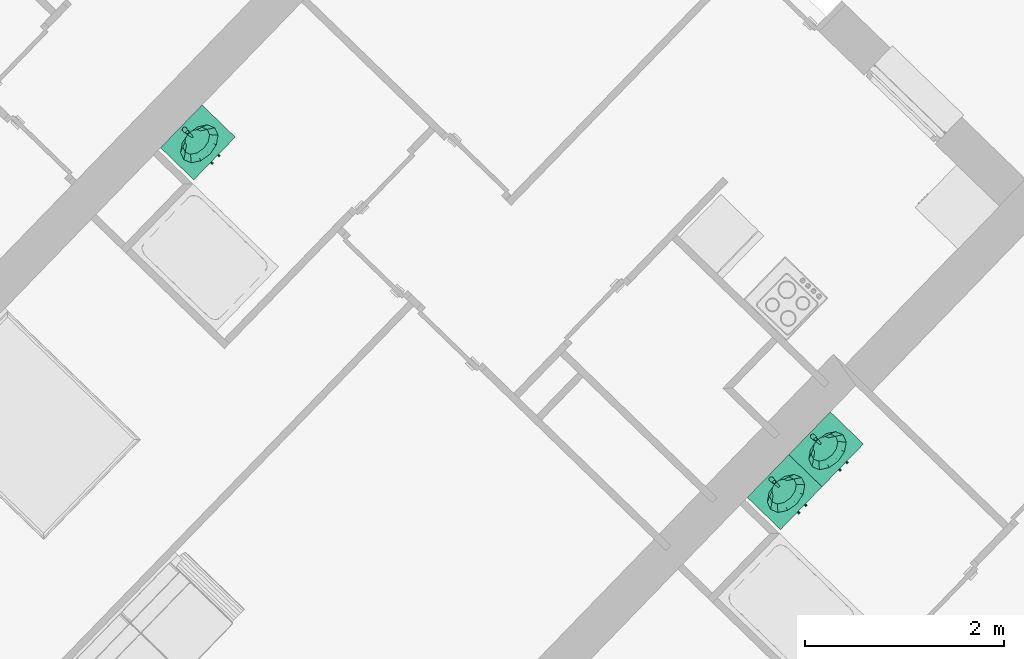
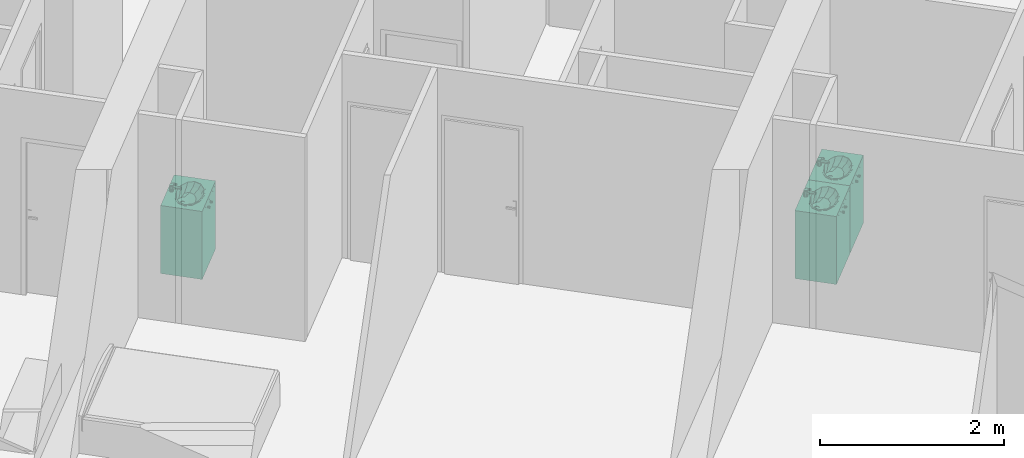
# One storey, part 88 of 121: 3 distribution elements.
"""IFC2X3 building model written with IfcOpenShell, lengths in metres."""

import ifcopenshell
import ifcopenshell.guid

model = None  # the IFC model being written
_history = None  # IfcOwnerHistory: only IFC2X3 demands one
_inside = {}  # id of a spatial element -> (the spatial element, [elements in it])
_under = {}  # id of a project, library or spatial element -> (it, [spatial elements below it])
_declared = {}  # id of a project -> (the project, [libraries it declares])
_typed = {}  # id of a type object -> (the type object, [elements of that type])
_made_of = {}  # id of a material, layer set ... -> (it, [elements and type objects made of it])


def new_model(schema):
    """Start an empty IFC model of exactly this schema.

    Asked for "IFC4X3", IfcOpenShell would pick the latest addendum, in which some entities
    have other attributes; the version numbers below select the first issue.
    IFC2X3 requires an IfcOwnerHistory on every rooted entity: one is made here for all.
    """
    global model, _history
    if schema == "IFC4X3":
        model = ifcopenshell.file(schema_version=(4, 3, 0, 0))
    else:
        model = ifcopenshell.file(schema=schema)
    _inside.clear()
    _under.clear()
    _declared.clear()
    _typed.clear()
    _made_of.clear()
    _history = None
    if model.schema == "IFC2X3":
        org = make("IfcOrganization", Name="unknown")
        user = make(
            "IfcPersonAndOrganization",
            ThePerson=make("IfcPerson", FamilyName="unknown"),
            TheOrganization=org,
        )
        app = make(
            "IfcApplication",
            ApplicationDeveloper=org,
            Version="unknown",
            ApplicationFullName="unknown",
            ApplicationIdentifier="unknown",
        )
        _history = make(
            "IfcOwnerHistory",
            OwningUser=user,
            OwningApplication=app,
            ChangeAction="ADDED",
            CreationDate=0,
        )
    return model


def make(cls, **values):
    """One entity of the class cls with the attributes given. An attribute that is None is left unset."""
    return model.create_entity(
        cls, **{name: value for name, value in values.items() if value is not None}
    )


def entity(cls, *values):
    """Any entity or typed value of the class cls, its attributes in the order of the schema. None: left unset."""
    e = model.create_entity(cls)
    for i, value in enumerate(values):
        if value is not None:
            e[i] = value
    return e


def rooted(cls, **values):
    """An entity with a GlobalId (a new one), such as an element, a storey or a relation."""
    return make(cls, GlobalId=ifcopenshell.guid.new(), OwnerHistory=_history, **values)


def si_unit(unit_type, name, prefix=None):
    """IfcSIUnit, for example si_unit("LENGTHUNIT", "METRE", prefix="MILLI")."""
    return make("IfcSIUnit", UnitType=unit_type, Prefix=prefix, Name=name)


def converted_unit(unit_type, name, factor, base, dimensions=None, offset=None):
    """IfcConversionBasedUnit, such as the inch: factor (a typed value) times the base unit."""
    return make(
        "IfcConversionBasedUnit"
        if offset is None
        else "IfcConversionBasedUnitWithOffset",
        ConversionOffset=offset,
        Dimensions=None
        if dimensions is None
        else entity("IfcDimensionalExponents", *dimensions),
        UnitType=unit_type,
        Name=name,
        ConversionFactor=make(
            "IfcMeasureWithUnit", ValueComponent=factor, UnitComponent=base
        ),
    )


def derived_unit(unit_type, elements):
    """IfcDerivedUnit: a product of units, each with its exponent."""
    return make(
        "IfcDerivedUnit",
        Elements=[
            make("IfcDerivedUnitElement", Unit=unit, Exponent=power)
            for unit, power in elements
        ],
        UnitType=unit_type,
    )


def money_unit(currency):
    """IfcMonetaryUnit."""
    return make("IfcMonetaryUnit", Currency=currency)


def assignment(units):
    """IfcUnitAssignment: the units of a project."""
    return None if units is None else make("IfcUnitAssignment", Units=units)


def point(xyz):
    """IfcCartesianPoint."""
    return None if xyz is None else make("IfcCartesianPoint", Coordinates=xyz)


def direction(xyz):
    """IfcDirection."""
    return None if xyz is None else make("IfcDirection", DirectionRatios=xyz)


def frame(location, z_axis=None, x_axis=None):
    """IfcAxis2Placement3D, a coordinate frame: its origin and axes. An axis left out is left unset."""
    return make(
        "IfcAxis2Placement3D",
        Location=point(location),
        Axis=direction(z_axis),
        RefDirection=direction(x_axis),
    )


def origin_with_axes():
    """The frame at (0, 0, 0) with the z axis (0, 0, 1) and the x axis (1, 0, 0) written out."""
    return frame((0.0, 0.0, 0.0), z_axis=(0.0, 0.0, 1.0), x_axis=(1.0, 0.0, 0.0))


def place(relative_to, where):
    """IfcLocalPlacement: puts the frame where relative to a parent placement (None: the world)."""
    return make(
        "IfcLocalPlacement", PlacementRelTo=relative_to, RelativePlacement=where
    )


def context(
    kind, dimensions, precision=None, world=None, true_north=None, identifier=None
):
    """IfcGeometricRepresentationContext, for example the 3D "Model" context."""
    return make(
        "IfcGeometricRepresentationContext",
        ContextIdentifier=identifier,
        ContextType=kind,
        CoordinateSpaceDimension=dimensions,
        Precision=precision,
        WorldCoordinateSystem=world,
        TrueNorth=true_north,
    )


def subcontext(parent, identifier, kind, view, scale=None):
    """IfcGeometricRepresentationSubContext, for example "Body" below "Model"."""
    return make(
        "IfcGeometricRepresentationSubContext",
        ContextIdentifier=identifier,
        ContextType=kind,
        ParentContext=parent,
        TargetScale=scale,
        TargetView=view,
    )


def project(units=None, contexts=None):
    """IfcProject with its units and contexts."""
    return rooted(
        "IfcProject",
        Name="project",
        RepresentationContexts=contexts,
        UnitsInContext=assignment(units),
    )


def spatial(cls, under=None, at=None, **own):
    """A site, building, storey or space (cls), placed at a placement, below another one or the project."""
    s = rooted(cls, ObjectPlacement=at, **own)
    if under is not None:
        _under.setdefault(under.id(), (under, []))[1].append(s)
    return s


def faces_of(points, faces, orient=None, outer=None):
    """IfcFace entities. A face is a list of loops; a loop is a list of indices into points, from 0.

    orient and outer hold one flag for each loop. By default every Orientation is true, the
    first loop of a face is its IfcFaceOuterBound and the others are IfcFaceBound.
    """
    made = []
    for i, loops in enumerate(faces):
        bounds = []
        for j, loop in enumerate(loops):
            is_outer = j == 0 if outer is None else outer[i][j]
            bounds.append(
                make(
                    "IfcFaceOuterBound" if is_outer else "IfcFaceBound",
                    Bound=make("IfcPolyLoop", Polygon=[points[k] for k in loop]),
                    Orientation=True if orient is None else orient[i][j],
                )
            )
        made.append(make("IfcFace", Bounds=bounds))
    return made


def open_shell(faces, orient=None, outer=None):
    """The faces of one IfcOpenShell. surface_model builds it on its shared points."""
    return ("IfcOpenShell", faces, orient, outer)


def faceted_brep(points, faces, orient=None, outer=None, voids=None):
    """IfcFacetedBrep: a solid bounded by flat faces; with voids (closed shells), ...WithVoids."""
    shared = [point(p) for p in points]
    hull = make("IfcClosedShell", CfsFaces=faces_of(shared, faces, orient, outer))
    if voids is None:
        return make("IfcFacetedBrep", Outer=hull)
    return make(
        "IfcFacetedBrepWithVoids",
        Outer=hull,
        Voids=[
            make(cls, CfsFaces=faces_of(shared, fs, o, b)) for cls, fs, o, b in voids
        ],
    )


def surface_model(cls, points, shells):
    """IfcFaceBasedSurfaceModel or IfcShellBasedSurfaceModel (cls): surfaces that need not close."""
    shared = [point(p) for p in points]
    made = [make(c, CfsFaces=faces_of(shared, fs, o, b)) for c, fs, o, b in shells]
    if cls == "IfcFaceBasedSurfaceModel":
        return make(cls, FbsmFaces=made)
    return make(cls, SbsmBoundary=made)


def shape(context_of_items, identifier, shape_type, items):
    """IfcShapeRepresentation: the items that make up one representation, for example the "Body"."""
    return make(
        "IfcShapeRepresentation",
        ContextOfItems=context_of_items,
        RepresentationIdentifier=identifier,
        RepresentationType=shape_type,
        Items=items,
    )


def source(mapping_origin, context_of_items, identifier, shape_type, items):
    """IfcRepresentationMap: a shape defined once, which mapped items show again and again."""
    return make(
        "IfcRepresentationMap",
        MappingOrigin=mapping_origin,
        MappedRepresentation=shape(context_of_items, identifier, shape_type, items),
    )


def transform(
    local_origin,
    x_axis=None,
    y_axis=None,
    z_axis=None,
    scale=None,
    scale2=None,
    scale3=None,
    uniform=True,
):
    """IfcCartesianTransformationOperator3D, or its non-uniform kind. x_axis, y_axis, z_axis: its Axis1, 2, 3."""
    if uniform:
        return make(
            "IfcCartesianTransformationOperator3D",
            Axis1=direction(x_axis),
            Axis2=direction(y_axis),
            LocalOrigin=point(local_origin),
            Scale=scale,
            Axis3=direction(z_axis),
        )
    return make(
        "IfcCartesianTransformationOperator3DnonUniform",
        Axis1=direction(x_axis),
        Axis2=direction(y_axis),
        LocalOrigin=point(local_origin),
        Scale=scale,
        Axis3=direction(z_axis),
        Scale2=scale2,
        Scale3=scale3,
    )


def mapped(mapping_source, mapping_target):
    """IfcMappedItem: shows the shape of a source again, moved by a transform."""
    return make(
        "IfcMappedItem", MappingSource=mapping_source, MappingTarget=mapping_target
    )


def made_of(thing, what):
    """Note that an element or type object is made of a material, layer set ...; save() writes the relation."""
    if what is not None:
        _made_of.setdefault(what.id(), (what, []))[1].append(thing)
    return thing


def type_object(cls, material=None, **own):
    """A type object (cls), such as IfcWallType, which elements share."""
    return made_of(rooted(cls, **own), material)


def element(
    cls,
    number,
    at=None,
    inside=None,
    cuts=None,
    type_object=None,
    material=None,
    context=None,
    identifier="Body",
    shape_type=None,
    held_by="IfcProductDefinitionShape",
    body=None,
    shapes=None,
    **own,
):
    """One element of the class cls, such as IfcWall. Its Tag is "e" and its number.

    at: its placement. inside: the storey or other place that contains it. cuts: it is an
    opening in that element (IfcRelVoidsElement). A single representation is given by context,
    identifier, shape_type and body (its items); several are given by shapes. held_by: the class
    of the entity that holds the representations. save() writes the other relations.
    """
    e = rooted(cls, Tag="e%d" % number, ObjectPlacement=at, **own)
    if body is not None:
        shapes = [shape(context, identifier, shape_type, body)]
    if shapes is not None:
        e.Representation = make(held_by, Representations=shapes)
    if inside is not None:
        _inside.setdefault(inside.id(), (inside, []))[1].append(e)
    if cuts is not None:
        rooted(
            "IfcRelVoidsElement", RelatingBuildingElement=cuts, RelatedOpeningElement=e
        )
    if type_object is not None:
        _typed.setdefault(type_object.id(), (type_object, []))[1].append(e)
    return made_of(e, material)


def aggregate(whole, parts):
    """IfcRelAggregates: a whole, such as a stair, and the parts it consists of."""
    return rooted("IfcRelAggregates", RelatingObject=whole, RelatedObjects=parts)


def save(model, path):
    """Write the relations noted so far, then the file.

    IfcRelAggregates (storeys below a building ...), IfcRelContainedInSpatialStructure (elements
    in a storey), IfcRelDefinesByType, IfcRelAssociatesMaterial and IfcRelDeclares: one each for
    every whole, place, type object, material and project.
    """
    for whole, parts in _under.values():
        aggregate(whole, parts)
    for where, things in _inside.values():
        rooted(
            "IfcRelContainedInSpatialStructure",
            RelatedElements=things,
            RelatingStructure=where,
        )
    for kind, things in _typed.values():
        rooted("IfcRelDefinesByType", RelatedObjects=things, RelatingType=kind)
    for what, things in _made_of.values():
        rooted("IfcRelAssociatesMaterial", RelatedObjects=things, RelatingMaterial=what)
    for by, libraries in _declared.values():
        rooted("IfcRelDeclares", RelatingContext=by, RelatedDefinitions=libraries)
    model.write(path)


model = new_model("IFC2X3")

# Units and contexts
model_context = context("Model", 3, precision=1e-05, world=origin_with_axes(), true_north=direction((0.0, 1.0)))
body_context = subcontext(model_context, "Body", "Model", "MODEL_VIEW")
ifc_project = project(units=[si_unit("LENGTHUNIT", "METRE"), si_unit("AREAUNIT", "SQUARE_METRE"), si_unit("VOLUMEUNIT", "CUBIC_METRE"), converted_unit("PLANEANGLEUNIT", "DEGREE", entity("IfcPlaneAngleMeasure", 0.0174532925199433), si_unit("PLANEANGLEUNIT", "RADIAN"), dimensions=[0, 0, 0, 0, 0, 0, 0]), money_unit("CHF"), converted_unit("TIMEUNIT", "Year", entity("IfcTimeMeasure", 31557600.0), si_unit("TIMEUNIT", "SECOND"), dimensions=[0, 0, 1, 0, 0, 0, 0]), si_unit("MASSUNIT", "GRAM", prefix="KILO"), si_unit("THERMODYNAMICTEMPERATUREUNIT", "DEGREE_CELSIUS"), si_unit("LUMINOUSINTENSITYUNIT", "LUMEN"), si_unit("ENERGYUNIT", "JOULE", prefix="MEGA"), derived_unit("THERMALCONDUCTANCEUNIT", [(si_unit("POWERUNIT", "WATT"), 1), (si_unit("LENGTHUNIT", "METRE"), -1), (si_unit("THERMODYNAMICTEMPERATUREUNIT", "KELVIN"), -1)]), derived_unit("SPECIFICHEATCAPACITYUNIT", [(si_unit("ENERGYUNIT", "JOULE"), 1), (si_unit("MASSUNIT", "GRAM", prefix="KILO"), -1), (si_unit("THERMODYNAMICTEMPERATUREUNIT", "KELVIN"), -1)]), derived_unit("MASSDENSITYUNIT", [(si_unit("MASSUNIT", "GRAM", prefix="KILO"), 1), (si_unit("VOLUMEUNIT", "CUBIC_METRE"), -1)])], contexts=[model_context])

# Site, building, storey
site_placement = place(None, origin_with_axes())
site = spatial("IfcSite", under=ifc_project, at=site_placement, Name="Site", CompositionType="ELEMENT")
building_placement = place(site_placement, origin_with_axes())
building = spatial("IfcBuilding", under=site, at=building_placement, Name="Bâtiment", CompositionType="ELEMENT")
storey_placement = place(building_placement, frame((0.0, 0.0, 2.75), z_axis=(0.0, 0.0, 1.0), x_axis=(1.0, 0.0, 0.0)))
storey = spatial("IfcBuildingStorey", under=building, at=storey_placement, Name="Etage 1", CompositionType="ELEMENT", Elevation=2.75)

# Distribution elements
distribution_element_type = type_object("IfcDistributionElementType", Name="Lavabo sur meuble 27")
shared_shape = source(origin_with_axes(), body_context, "Body", "SurfaceModel", [
    faceted_brep([(0.0, 0.0, 0.0), (0.0, 0.0, 0.1), (-0.6, 0.0, 0.1), (-0.6, 0.0, 0.0), (0.0, 0.4653441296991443, 0.0), (0.0, 0.4653441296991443, 0.1), (-0.6, 0.4653441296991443, 0.1), (-0.6, 0.4653441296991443, 0.0)], [[[0, 1, 2, 3]], [[4, 5, 1, 0]], [[1, 5, 6, 2]], [[3, 2, 6, 7]], [[0, 3, 7, 4]], [[7, 6, 5, 4]]]),
    faceted_brep([(0.0, 0.0, 0.1), (0.0, 0.0, 0.12), (-0.02, 0.0, 0.12), (-0.02, 0.0, 0.1), (0.0, 0.4653441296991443, 0.1), (0.0, 0.4653441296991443, 0.12), (-0.02, 0.4653441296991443, 0.12), (-0.58, 0.4653441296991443, 0.12), (-0.6, 0.4653441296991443, 0.12), (-0.6, 0.0, 0.12), (-0.58, 0.0, 0.12), (-0.58, 0.0, 0.1), (-0.6, 0.0, 0.1), (-0.6, 0.4653441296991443, 0.1), (-0.58, 0.4653441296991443, 0.1), (-0.02, 0.4653441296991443, 0.1)], [[[0, 1, 2, 3]], [[4, 5, 1, 0]], [[1, 5, 6, 7, 8, 9, 10, 2]], [[3, 2, 10, 11]], [[0, 3, 11, 12, 13, 14, 15, 4]], [[15, 6, 5, 4]], [[14, 7, 6, 15]], [[13, 8, 7, 14]], [[12, 9, 8, 13]], [[11, 10, 9, 12]]]),
    faceted_brep([(0.0, 0.0, 0.12), (0.0, 0.0, 0.85), (-0.02, 0.0, 0.85), (-0.02, 0.0, 0.12), (0.0, 0.4653441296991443, 0.12), (0.0, 0.4653441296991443, 0.85), (-0.6, 0.4653441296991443, 0.85), (-0.6, 0.0, 0.85), (-0.58, 0.0, 0.85), (-0.58, 0.4453441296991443, 0.85), (-0.02, 0.4453441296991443, 0.85), (-0.02, 0.4453441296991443, 0.12), (-0.58, 0.4453441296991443, 0.12), (-0.58, 0.0, 0.12), (-0.6, 0.0, 0.12), (-0.6, 0.4653441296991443, 0.12)], [[[0, 1, 2, 3]], [[4, 5, 1, 0]], [[1, 5, 6, 7, 8, 9, 10, 2]], [[3, 2, 10, 11]], [[0, 3, 11, 12, 13, 14, 15, 4]], [[15, 6, 5, 4]], [[14, 7, 6, 15]], [[13, 8, 7, 14]], [[12, 9, 8, 13]], [[11, 10, 9, 12]]]),
    faceted_brep([(-0.58, 0.0, 0.3233333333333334), (-0.58, 0.0, 0.3433333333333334), (-0.58, 0.4453441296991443, 0.3433333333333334), (-0.58, 0.4453441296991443, 0.3233333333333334), (-0.02, 0.0, 0.3233333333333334), (-0.02, 0.0, 0.3433333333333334), (-0.02, 0.4453441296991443, 0.3433333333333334), (-0.02, 0.4453441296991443, 0.3233333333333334)], [[[0, 1, 2, 3]], [[4, 5, 1, 0]], [[1, 5, 6, 2]], [[3, 2, 6, 7]], [[0, 3, 7, 4]], [[7, 6, 5, 4]]]),
    faceted_brep([(-0.58, 0.0, 0.5666666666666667), (-0.58, 0.0, 0.5866666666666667), (-0.58, 0.4453441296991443, 0.5866666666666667), (-0.58, 0.4453441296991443, 0.5666666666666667), (-0.02, 0.0, 0.5666666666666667), (-0.02, 0.0, 0.5866666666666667), (-0.02, 0.4453441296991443, 0.5866666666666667), (-0.02, 0.4453441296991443, 0.5666666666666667)], [[[0, 1, 2, 3]], [[4, 5, 1, 0]], [[1, 5, 6, 2]], [[3, 2, 6, 7]], [[0, 3, 7, 4]], [[7, 6, 5, 4]]]),
    faceted_brep([(0.0, 0.4653441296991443, 0.85), (0.0, 0.0, 0.85), (-0.6, 0.0, 0.85), (-0.6, 0.4653441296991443, 0.85), (-0.4124999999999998, 0.08276825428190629, 0.85), (-0.3, 0.06267206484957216, 0.85), (-0.1874999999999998, 0.08276825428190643, 0.85), (-0.1051442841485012, 0.1376720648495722, 0.85), (-0.07499999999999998, 0.2126720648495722, 0.85), (-0.1051442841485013, 0.2876720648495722, 0.85), (-0.1875000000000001, 0.342575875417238, 0.85), (-0.3, 0.3626720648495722, 0.85), (-0.4125, 0.3425758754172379, 0.85), (-0.4948557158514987, 0.2876720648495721, 0.85), (-0.525, 0.2126720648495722, 0.85), (-0.4948557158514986, 0.137672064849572, 0.85), (0.0, 0.4653441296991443, 0.9), (0.0, 0.0, 0.9), (-0.6, 0.0, 0.9), (-0.6, 0.4653441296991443, 0.9), (-0.3, 0.06267206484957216, 0.9), (-0.4124999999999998, 0.08276825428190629, 0.9), (-0.1874999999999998, 0.08276825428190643, 0.9), (-0.1051442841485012, 0.1376720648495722, 0.9), (-0.07499999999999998, 0.2126720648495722, 0.9), (-0.1051442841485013, 0.2876720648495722, 0.9), (-0.1875000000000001, 0.342575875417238, 0.9), (-0.3, 0.3626720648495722, 0.9), (-0.4125, 0.3425758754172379, 0.9), (-0.4948557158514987, 0.2876720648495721, 0.9), (-0.525, 0.2126720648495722, 0.9), (-0.4948557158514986, 0.137672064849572, 0.9)], [[[0, 1, 2, 3], [4, 5, 6, 7, 8, 9, 10, 11, 12, 13, 14, 15]], [[1, 0, 16, 17]], [[2, 1, 17, 18]], [[3, 2, 18, 19]], [[0, 3, 19, 16]], [[20, 5, 4, 21]], [[22, 6, 5, 20]], [[23, 7, 6, 22]], [[24, 8, 7, 23]], [[25, 9, 8, 24]], [[26, 10, 9, 25]], [[27, 11, 10, 26]], [[28, 12, 11, 27]], [[29, 13, 12, 28]], [[30, 14, 13, 29]], [[31, 15, 14, 30]], [[21, 4, 15, 31]], [[18, 17, 16, 19], [28, 27, 26, 25, 24, 23, 22, 20, 21, 31, 30, 29]]]),
    faceted_brep([(-0.544, 0.2126720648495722, 0.905), (-0.511310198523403, 0.2943684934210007, 0.905), (-0.511310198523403, 0.2943684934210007, 0.9), (-0.544, 0.2126720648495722, 0.9), (-0.5113101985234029, 0.1309756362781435, 0.905), (-0.4219999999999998, 0.07116969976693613, 0.905), (-0.3, 0.04927920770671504, 0.905), (-0.1779999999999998, 0.07116969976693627, 0.905), (-0.08868980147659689, 0.1309756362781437, 0.905), (-0.05599999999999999, 0.2126720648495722, 0.905), (-0.088689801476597, 0.2943684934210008, 0.905), (-0.178, 0.3541744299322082, 0.905), (-0.3, 0.3760649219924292, 0.905), (-0.422, 0.3541744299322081, 0.905), (-0.524, 0.2126720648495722, 0.905), (-0.4939896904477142, 0.2876720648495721, 0.905), (-0.412, 0.3425758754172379, 0.905), (-0.3, 0.3626720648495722, 0.905), (-0.1880000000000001, 0.342575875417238, 0.905), (-0.1060103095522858, 0.2876720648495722, 0.905), (-0.07599999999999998, 0.2126720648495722, 0.905), (-0.1060103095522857, 0.1376720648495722, 0.905), (-0.1879999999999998, 0.08276825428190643, 0.905), (-0.3, 0.06267206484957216, 0.905), (-0.4119999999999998, 0.08276825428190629, 0.905), (-0.4939896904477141, 0.137672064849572, 0.905), (-0.422, 0.3541744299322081, 0.9), (-0.3, 0.3760649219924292, 0.9), (-0.178, 0.3541744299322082, 0.9), (-0.088689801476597, 0.2943684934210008, 0.9), (-0.05599999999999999, 0.2126720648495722, 0.9), (-0.08868980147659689, 0.1309756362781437, 0.9), (-0.1779999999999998, 0.07116969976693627, 0.9), (-0.3, 0.04927920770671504, 0.9), (-0.4219999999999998, 0.07116969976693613, 0.9), (-0.5113101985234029, 0.1309756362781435, 0.9), (-0.524, 0.2126720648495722, 0.9), (-0.4939896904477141, 0.137672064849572, 0.9), (-0.4119999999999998, 0.08276825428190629, 0.9), (-0.3, 0.06267206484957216, 0.9), (-0.1879999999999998, 0.08276825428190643, 0.9), (-0.1060103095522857, 0.1376720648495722, 0.9), (-0.07599999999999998, 0.2126720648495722, 0.9), (-0.1060103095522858, 0.2876720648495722, 0.9), (-0.1880000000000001, 0.342575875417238, 0.9), (-0.3, 0.3626720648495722, 0.9), (-0.412, 0.3425758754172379, 0.9), (-0.4939896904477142, 0.2876720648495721, 0.9)], [[[0, 1, 2, 3]], [[0, 4, 5, 6, 7, 8, 9, 10, 11, 12, 13, 1], [14, 15, 16, 17, 18, 19, 20, 21, 22, 23, 24, 25]], [[1, 13, 26, 2]], [[3, 2, 26, 27, 28, 29, 30, 31, 32, 33, 34, 35], [36, 37, 38, 39, 40, 41, 42, 43, 44, 45, 46, 47]], [[4, 0, 3, 35]], [[5, 4, 35, 34]], [[6, 5, 34, 33]], [[7, 6, 33, 32]], [[8, 7, 32, 31]], [[9, 8, 31, 30]], [[10, 9, 30, 29]], [[11, 10, 29, 28]], [[12, 11, 28, 27]], [[13, 12, 27, 26]], [[15, 14, 36, 47]], [[16, 15, 47, 46]], [[17, 16, 46, 45]], [[18, 17, 45, 44]], [[19, 18, 44, 43]], [[20, 19, 43, 42]], [[21, 20, 42, 41]], [[22, 21, 41, 40]], [[23, 22, 40, 39]], [[24, 23, 39, 38]], [[25, 24, 38, 37]], [[14, 25, 37, 36]]]),
    surface_model("IfcShellBasedSurfaceModel", [(-0.3, 0.3626720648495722, 0.9), (-0.412, 0.342575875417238, 0.9), (-0.4008, 0.3445854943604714, 0.848), (-0.3, 0.3626720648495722, 0.848), (-0.4939896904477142, 0.2876720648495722, 0.9), (-0.4745907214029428, 0.2951720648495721, 0.848), (-0.1879999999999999, 0.3425758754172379, 0.9), (-0.1991999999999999, 0.3445854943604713, 0.848), (-0.524, 0.2126720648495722, 0.9), (-0.5016, 0.2276720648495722, 0.848), (-0.1060103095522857, 0.2876720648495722, 0.9), (-0.1254092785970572, 0.2951720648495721, 0.848), (-0.4939896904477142, 0.1376720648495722, 0.9), (-0.4745907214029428, 0.1601720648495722, 0.848), (-0.07599999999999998, 0.2126720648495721, 0.9), (-0.09839999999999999, 0.2276720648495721, 0.848), (-0.412, 0.08276825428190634, 0.9), (-0.4008, 0.1107586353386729, 0.848), (-0.1060103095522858, 0.1376720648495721, 0.9), (-0.1254092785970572, 0.1601720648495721, 0.848), (-0.3, 0.06267206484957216, 0.9), (-0.3, 0.09267206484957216, 0.848), (-0.1879999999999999, 0.08276825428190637, 0.9), (-0.1992, 0.110758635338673, 0.848)], [open_shell([[[0, 1, 2, 3]], [[1, 4, 5, 2]], [[6, 0, 3, 7]], [[4, 8, 9, 5]], [[10, 6, 7, 11]], [[8, 12, 13, 9]], [[14, 10, 11, 15]], [[12, 16, 17, 13]], [[18, 14, 15, 19]], [[16, 20, 21, 17]], [[22, 18, 19, 23]], [[20, 22, 23, 21]]])]),
    surface_model("IfcShellBasedSurfaceModel", [(-0.3, 0.3626720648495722, 0.848), (-0.4008, 0.3445854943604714, 0.848), (-0.379632, 0.3483836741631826, 0.7959999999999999), (-0.3, 0.3626720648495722, 0.7959999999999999), (-0.4745907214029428, 0.2951720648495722, 0.848), (-0.4379266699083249, 0.3093470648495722, 0.7959999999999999), (-0.1991999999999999, 0.3445854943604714, 0.848), (-0.2203679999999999, 0.3483836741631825, 0.7959999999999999), (-0.5016, 0.2276720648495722, 0.848), (-0.459264, 0.2560220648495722, 0.7959999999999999), (-0.1254092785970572, 0.2951720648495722, 0.848), (-0.1620733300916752, 0.3093470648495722, 0.7959999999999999), (-0.4745907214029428, 0.1601720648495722, 0.848), (-0.4379266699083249, 0.2026970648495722, 0.7959999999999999), (-0.09839999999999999, 0.2276720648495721, 0.848), (-0.140736, 0.2560220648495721, 0.7959999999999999), (-0.4008, 0.1107586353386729, 0.848), (-0.379632, 0.1636604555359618, 0.7959999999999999), (-0.1254092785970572, 0.1601720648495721, 0.848), (-0.1620733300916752, 0.2026970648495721, 0.7959999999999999), (-0.3, 0.09267206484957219, 0.848), (-0.3, 0.1493720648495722, 0.7959999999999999), (-0.1992, 0.110758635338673, 0.848), (-0.220368, 0.1636604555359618, 0.7959999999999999)], [open_shell([[[0, 1, 2, 3]], [[1, 4, 5, 2]], [[6, 0, 3, 7]], [[4, 8, 9, 5]], [[10, 6, 7, 11]], [[8, 12, 13, 9]], [[14, 10, 11, 15]], [[12, 16, 17, 13]], [[18, 14, 15, 19]], [[16, 20, 21, 17]], [[22, 18, 19, 23]], [[20, 22, 23, 21]]])]),
    surface_model("IfcShellBasedSurfaceModel", [(-0.3, 0.3626720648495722, 0.7959999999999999), (-0.379632, 0.3483836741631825, 0.7959999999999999), (-0.35016816, 0.3536703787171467, 0.7699999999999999), (-0.3, 0.3626720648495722, 0.7699999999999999), (-0.4379266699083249, 0.3093470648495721, 0.7959999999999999), (-0.3868938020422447, 0.3290773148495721, 0.7699999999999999), (-0.2203679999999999, 0.3483836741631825, 0.7959999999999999), (-0.2498318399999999, 0.3536703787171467, 0.7699999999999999), (-0.459264, 0.2560220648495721, 0.7959999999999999), (-0.40033632, 0.2954825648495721, 0.7699999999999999), (-0.1620733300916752, 0.3093470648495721, 0.7959999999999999), (-0.2131061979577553, 0.3290773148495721, 0.7699999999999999), (-0.4379266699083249, 0.2026970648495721, 0.7959999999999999), (-0.3868938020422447, 0.2618878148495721, 0.7699999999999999), (-0.140736, 0.2560220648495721, 0.7959999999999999), (-0.19966368, 0.2954825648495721, 0.7699999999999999), (-0.379632, 0.1636604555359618, 0.7959999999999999), (-0.35016816, 0.2372947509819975, 0.7699999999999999), (-0.1620733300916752, 0.2026970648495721, 0.7959999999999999), (-0.2131061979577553, 0.2618878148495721, 0.7699999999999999), (-0.3, 0.1493720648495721, 0.7959999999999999), (-0.3, 0.2282930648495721, 0.7699999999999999), (-0.220368, 0.1636604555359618, 0.7959999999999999), (-0.24983184, 0.2372947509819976, 0.7699999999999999)], [open_shell([[[0, 1, 2, 3]], [[1, 4, 5, 2]], [[6, 0, 3, 7]], [[4, 8, 9, 5]], [[10, 6, 7, 11]], [[8, 12, 13, 9]], [[14, 10, 11, 15]], [[12, 16, 17, 13]], [[18, 14, 15, 19]], [[16, 20, 21, 17]], [[22, 18, 19, 23]], [[20, 22, 23, 21]]])]),
    surface_model("IfcShellBasedSurfaceModel", [(-0.3, 0.3626720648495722, 0.7699999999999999), (-0.35016816, 0.3536703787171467, 0.7699999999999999), (-0.315, 0.3214633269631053, 0.7629999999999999), (-0.3259807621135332, 0.3104825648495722, 0.7629999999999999), (-0.3, 0.3254825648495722, 0.7629999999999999), (-0.3868938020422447, 0.3290773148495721, 0.7699999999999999), (-0.2498318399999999, 0.3536703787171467, 0.7699999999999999), (-0.33, 0.2954825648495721, 0.7629999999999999), (-0.285, 0.3214633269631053, 0.7629999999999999), (-0.40033632, 0.2954825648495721, 0.7699999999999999), (-0.2131061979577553, 0.3290773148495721, 0.7699999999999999), (-0.3259807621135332, 0.2804825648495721, 0.7629999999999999), (-0.2740192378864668, 0.3104825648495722, 0.7629999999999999), (-0.3868938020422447, 0.2618878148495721, 0.7699999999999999), (-0.19966368, 0.2954825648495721, 0.7699999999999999), (-0.315, 0.269501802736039, 0.7629999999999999), (-0.27, 0.2954825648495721, 0.7629999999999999), (-0.35016816, 0.2372947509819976, 0.7699999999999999), (-0.2131061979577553, 0.2618878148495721, 0.7699999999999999), (-0.3, 0.2654825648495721, 0.7629999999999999), (-0.2740192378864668, 0.2804825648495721, 0.7629999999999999), (-0.3, 0.2282930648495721, 0.7699999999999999), (-0.24983184, 0.2372947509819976, 0.7699999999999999), (-0.285, 0.269501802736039, 0.7629999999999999)], [open_shell([[[0, 1, 2]], [[1, 3, 2]], [[0, 2, 4]], [[1, 5, 3]], [[6, 0, 4]], [[5, 7, 3]], [[6, 4, 8]], [[5, 9, 7]], [[10, 6, 8]], [[9, 11, 7]], [[10, 8, 12]], [[9, 13, 11]], [[14, 10, 12]], [[13, 15, 11]], [[14, 12, 16]], [[13, 17, 15]], [[18, 14, 16]], [[17, 19, 15]], [[18, 16, 20]], [[17, 21, 19]], [[22, 18, 20]], [[21, 23, 19]], [[22, 20, 23]], [[21, 22, 23]]])]),
    surface_model("IfcShellBasedSurfaceModel", [(-0.33, 0.2954825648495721, 0.763), (-0.3259807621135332, 0.3104825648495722, 0.763), (-0.3259807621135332, 0.3104825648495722, 0.758), (-0.33, 0.2954825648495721, 0.758), (-0.315, 0.3214633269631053, 0.763), (-0.315, 0.3214633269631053, 0.758), (-0.3, 0.3254825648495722, 0.758), (-0.285, 0.3214633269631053, 0.758), (-0.2740192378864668, 0.3104825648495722, 0.758), (-0.27, 0.2954825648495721, 0.758), (-0.2740192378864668, 0.2804825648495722, 0.758), (-0.285, 0.269501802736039, 0.758), (-0.3, 0.2654825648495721, 0.758), (-0.3149999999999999, 0.269501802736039, 0.758), (-0.3259807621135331, 0.2804825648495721, 0.758), (-0.3259807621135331, 0.2804825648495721, 0.763), (-0.3, 0.3254825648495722, 0.763), (-0.285, 0.3214633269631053, 0.763), (-0.2740192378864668, 0.3104825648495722, 0.763), (-0.27, 0.2954825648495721, 0.763), (-0.2740192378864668, 0.2804825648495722, 0.763), (-0.285, 0.269501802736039, 0.763), (-0.3, 0.2654825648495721, 0.763), (-0.3149999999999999, 0.269501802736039, 0.763)], [open_shell([[[0, 1, 2, 3]], [[1, 4, 5, 2]], [[3, 2, 5, 6, 7, 8, 9, 10, 11, 12, 13, 14]], [[15, 0, 3, 14]], [[4, 16, 6, 5]], [[16, 17, 7, 6]], [[17, 18, 8, 7]], [[18, 19, 9, 8]], [[19, 20, 10, 9]], [[20, 21, 11, 10]], [[21, 22, 12, 11]], [[22, 23, 13, 12]], [[23, 15, 14, 13]]])]),
    faceted_brep([(-0.3125, 0.4406587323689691, 0.9), (-0.310587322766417, 0.4373458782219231, 0.976507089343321), (-0.3, 0.4402100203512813, 0.9759615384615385), (-0.3, 0.4440080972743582, 0.9), (-0.3216506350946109, 0.4315080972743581, 0.9), (-0.3182735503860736, 0.4295583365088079, 0.9779904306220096), (-0.321, 0.4190080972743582, 0.98), (-0.3181003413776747, 0.4085578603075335, 0.9819905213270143), (-0.3104141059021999, 0.400970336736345, 0.9834357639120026), (-0.3, 0.3982062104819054, 0.9839622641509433), (-0.2895858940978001, 0.400970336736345, 0.9834357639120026), (-0.2818996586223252, 0.4085578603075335, 0.9819905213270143), (-0.279, 0.4190080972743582, 0.98), (-0.2817264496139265, 0.4295583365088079, 0.9779904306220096), (-0.289412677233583, 0.4373458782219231, 0.976507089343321), (-0.2875, 0.4406587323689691, 0.9), (-0.278349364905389, 0.4315080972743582, 0.9), (-0.275, 0.4190080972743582, 0.9), (-0.278349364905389, 0.4065080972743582, 0.9), (-0.2875, 0.3973574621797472, 0.9), (-0.3, 0.3940080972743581, 0.9), (-0.3125, 0.3973574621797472, 0.9), (-0.3216506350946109, 0.4065080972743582, 0.9), (-0.325, 0.4190080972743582, 0.9)], [[[0, 1, 2, 3]], [[4, 5, 1, 0]], [[1, 5, 6, 7, 8, 9, 10, 11, 12, 13, 14, 2]], [[3, 2, 14, 15]], [[0, 3, 15, 16, 17, 18, 19, 20, 21, 22, 23, 4]], [[23, 6, 5, 4]], [[22, 7, 6, 23]], [[21, 8, 7, 22]], [[20, 9, 8, 21]], [[19, 10, 9, 20]], [[18, 11, 10, 19]], [[17, 12, 11, 18]], [[16, 13, 12, 17]], [[15, 14, 13, 16]]]),
    faceted_brep([(-0.309, 0.3160080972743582, 0.935), (-0.309, 0.3160080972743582, 0.9450000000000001), (-0.3077942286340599, 0.3205080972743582, 0.9450000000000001), (-0.3077942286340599, 0.3205080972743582, 0.935), (-0.3077942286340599, 0.3115080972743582, 0.935), (-0.3077942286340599, 0.3115080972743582, 0.9450000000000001), (-0.3045, 0.3082138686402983, 0.9450000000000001), (-0.3, 0.3070080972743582, 0.9450000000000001), (-0.2955, 0.3082138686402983, 0.9450000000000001), (-0.2922057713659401, 0.3115080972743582, 0.9450000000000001), (-0.291, 0.3160080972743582, 0.9450000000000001), (-0.2922057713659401, 0.3205080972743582, 0.9450000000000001), (-0.2955, 0.3238023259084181, 0.9450000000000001), (-0.3, 0.3250080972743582, 0.9450000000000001), (-0.3045, 0.3238023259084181, 0.9450000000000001), (-0.3045, 0.3238023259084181, 0.935), (-0.3, 0.3250080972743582, 0.935), (-0.2955, 0.3238023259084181, 0.935), (-0.2922057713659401, 0.3205080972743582, 0.935), (-0.291, 0.3160080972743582, 0.935), (-0.2922057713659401, 0.3115080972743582, 0.935), (-0.2955, 0.3082138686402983, 0.935), (-0.3, 0.3070080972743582, 0.935), (-0.3045, 0.3082138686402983, 0.935)], [[[0, 1, 2, 3]], [[4, 5, 1, 0]], [[1, 5, 6, 7, 8, 9, 10, 11, 12, 13, 14, 2]], [[3, 2, 14, 15]], [[0, 3, 15, 16, 17, 18, 19, 20, 21, 22, 23, 4]], [[23, 6, 5, 4]], [[22, 7, 6, 23]], [[21, 8, 7, 22]], [[20, 9, 8, 21]], [[19, 10, 9, 20]], [[18, 11, 10, 19]], [[17, 12, 11, 18]], [[16, 13, 12, 17]], [[15, 14, 13, 16]]]),
    faceted_brep([(-0.2871282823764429, 0.439264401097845, 0.9600000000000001), (-0.300000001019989, 0.44300807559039, 0.9600000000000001), (-0.3128717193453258, 0.4392644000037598, 0.9600000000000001), (-0.3217278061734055, 0.4292013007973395, 0.9600000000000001), (-0.3238053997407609, 0.4159581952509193, 0.9600000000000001), (-0.310912, 0.3146197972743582, 0.9600000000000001), (-0.309028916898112, 0.3097249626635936, 0.9600000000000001), (-0.3050933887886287, 0.3062584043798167, 0.9600000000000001), (-0.300000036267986, 0.305008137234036, 0.9600000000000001), (-0.2949066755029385, 0.3062583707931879, 0.9600000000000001), (-0.2909711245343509, 0.3097249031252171, 0.9600000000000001), (-0.2890880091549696, 0.3146197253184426, 0.9600000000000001), (-0.2761946, 0.4159581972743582, 0.9600000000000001), (-0.2782721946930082, 0.4292013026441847, 0.9600000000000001), (-0.311, 0.4380606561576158, 0.9600000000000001), (-0.3, 0.4410080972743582, 0.9600000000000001), (-0.289, 0.4380606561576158, 0.9600000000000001), (-0.2809474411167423, 0.4300080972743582, 0.9600000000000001), (-0.278, 0.4190080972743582, 0.9600000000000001), (-0.2809474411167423, 0.4080080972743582, 0.9600000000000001), (-0.289, 0.3999555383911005, 0.9600000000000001), (-0.3, 0.3970080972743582, 0.9600000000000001), (-0.3109999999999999, 0.3999555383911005, 0.9600000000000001), (-0.3190525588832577, 0.4080080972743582, 0.9600000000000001), (-0.322, 0.4190080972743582, 0.9600000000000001), (-0.3190525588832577, 0.4300080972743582, 0.9600000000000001), (-0.2871282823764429, 0.439264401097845, 0.9450000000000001), (-0.300000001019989, 0.44300807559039, 0.9450000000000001), (-0.3128717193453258, 0.4392644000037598, 0.9450000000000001), (-0.3217278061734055, 0.4292013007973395, 0.9450000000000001), (-0.3238053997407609, 0.4159581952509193, 0.9450000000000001), (-0.310912, 0.3146197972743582, 0.9450000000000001), (-0.309028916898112, 0.3097249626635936, 0.9450000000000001), (-0.3050933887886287, 0.3062584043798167, 0.9450000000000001), (-0.300000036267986, 0.305008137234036, 0.9450000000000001), (-0.2949066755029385, 0.3062583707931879, 0.9450000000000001), (-0.2909711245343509, 0.3097249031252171, 0.9450000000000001), (-0.2890880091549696, 0.3146197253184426, 0.9450000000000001), (-0.2761946, 0.4159581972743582, 0.9450000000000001), (-0.2782721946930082, 0.4292013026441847, 0.9450000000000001), (-0.3, 0.4417580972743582, 0.9450000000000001), (-0.311375, 0.4387101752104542, 0.9450000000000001), (-0.288625, 0.4387101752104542, 0.9450000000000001), (-0.280297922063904, 0.4303830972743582, 0.9450000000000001), (-0.2772499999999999, 0.4190080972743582, 0.9450000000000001), (-0.280297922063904, 0.4076330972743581, 0.9450000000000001), (-0.288625, 0.3993060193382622, 0.9450000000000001), (-0.3, 0.3962580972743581, 0.9450000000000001), (-0.311375, 0.3993060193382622, 0.9450000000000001), (-0.319702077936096, 0.4076330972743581, 0.9450000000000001), (-0.32275, 0.4190080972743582, 0.9450000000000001), (-0.319702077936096, 0.4303830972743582, 0.9450000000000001)], [[[0, 1, 2, 3, 4, 5, 6, 7, 8, 9, 10, 11, 12, 13], [14, 15, 16, 17, 18, 19, 20, 21, 22, 23, 24, 25]], [[26, 27, 1, 0]], [[27, 28, 2, 1]], [[28, 29, 3, 2]], [[29, 30, 4, 3]], [[30, 31, 5, 4]], [[31, 32, 6, 5]], [[32, 33, 7, 6]], [[33, 34, 8, 7]], [[34, 35, 9, 8]], [[35, 36, 10, 9]], [[36, 37, 11, 10]], [[37, 38, 12, 11]], [[38, 39, 13, 12]], [[39, 26, 0, 13]], [[40, 15, 14, 41]], [[42, 16, 15, 40]], [[16, 42, 43, 17]], [[17, 43, 44, 18]], [[18, 44, 45, 19]], [[19, 45, 46, 20]], [[20, 46, 47, 21]], [[48, 22, 21, 47]], [[49, 23, 22, 48]], [[50, 24, 23, 49]], [[51, 25, 24, 50]], [[41, 14, 25, 51]], [[34, 33, 32, 31, 30, 29, 28, 27, 26, 39, 38, 37, 36, 35], [48, 47, 46, 45, 44, 43, 42, 40, 41, 51, 50, 49]]]),
    faceted_brep([(-0.323893, 0.4173155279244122, 0.9803223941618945), (-0.323893, 0.4180639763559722, 0.9842517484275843), (-0.3212964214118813, 0.4305312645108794, 0.9818770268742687), (-0.3212964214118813, 0.4297828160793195, 0.9779476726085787), (-0.3209459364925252, 0.377171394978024, 0.9879688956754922), (-0.3209459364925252, 0.377919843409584, 0.9918982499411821), (-0.317663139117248, 0.3682421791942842, 0.9937416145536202), (-0.3100614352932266, 0.3612927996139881, 0.995065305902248), (-0.2999995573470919, 0.3587709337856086, 0.9955456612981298), (-0.289937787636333, 0.3612932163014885, 0.9950652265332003), (-0.2823363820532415, 0.3682429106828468, 0.9937414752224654), (-0.279054, 0.3779207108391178, 0.991898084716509), (-0.2761069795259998, 0.4180642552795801, 0.9842516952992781), (-0.2787037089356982, 0.4305315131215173, 0.9818769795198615), (-0.2875283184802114, 0.4398477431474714, 0.9801024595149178), (-0.3000001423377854, 0.4432885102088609, 0.9794470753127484), (-0.3124719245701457, 0.4398475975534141, 0.9801024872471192), (-0.314, 0.3942157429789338, 0.9887942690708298), (-0.286, 0.3942157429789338, 0.9887942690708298), (-0.286, 0.3794001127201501, 0.9916162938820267), (-0.2878756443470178, 0.3725237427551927, 0.9929260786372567), (-0.293, 0.3674898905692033, 0.9938849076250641), (-0.3, 0.3656473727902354, 0.9942358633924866), (-0.307, 0.3674898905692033, 0.9938849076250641), (-0.3121243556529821, 0.3725237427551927, 0.9929260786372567), (-0.314, 0.3794001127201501, 0.9916162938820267), (-0.3124719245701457, 0.4390991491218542, 0.9761731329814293), (-0.3000001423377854, 0.4425400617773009, 0.9755177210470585), (-0.2875283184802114, 0.4390992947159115, 0.976173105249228), (-0.2787037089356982, 0.4297830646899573, 0.9779476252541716), (-0.2761069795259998, 0.4173158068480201, 0.9803223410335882), (-0.279054, 0.3771722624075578, 0.9879687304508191), (-0.2823363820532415, 0.3674944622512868, 0.9898121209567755), (-0.289937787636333, 0.3605447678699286, 0.9911358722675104), (-0.2999995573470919, 0.3580224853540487, 0.9916163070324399), (-0.3100614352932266, 0.3605443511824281, 0.9911359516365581), (-0.317663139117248, 0.3674937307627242, 0.9898122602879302), (-0.314, 0.3934672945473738, 0.9848649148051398), (-0.314, 0.37865166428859, 0.9876869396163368), (-0.3121243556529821, 0.3717752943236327, 0.9889967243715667), (-0.307, 0.3667414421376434, 0.9899555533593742), (-0.3, 0.3648989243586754, 0.9903065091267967), (-0.293, 0.3667414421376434, 0.9899555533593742), (-0.2878756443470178, 0.3717752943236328, 0.9889967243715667), (-0.286, 0.37865166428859, 0.9876869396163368), (-0.286, 0.3934672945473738, 0.9848649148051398)], [[[0, 1, 2, 3]], [[4, 5, 1, 0]], [[1, 5, 6, 7, 8, 9, 10, 11, 12, 13, 14, 15, 16, 2], [17, 18, 19, 20, 21, 22, 23, 24, 25]], [[3, 2, 16, 26]], [[0, 3, 26, 27, 28, 29, 30, 31, 32, 33, 34, 35, 36, 4], [37, 38, 39, 40, 41, 42, 43, 44, 45]], [[36, 6, 5, 4]], [[35, 7, 6, 36]], [[34, 8, 7, 35]], [[33, 9, 8, 34]], [[32, 10, 9, 33]], [[31, 11, 10, 32]], [[30, 12, 11, 31]], [[29, 13, 12, 30]], [[28, 14, 13, 29]], [[27, 15, 14, 28]], [[26, 16, 15, 27]], [[45, 18, 17, 37]], [[44, 19, 18, 45]], [[43, 20, 19, 44]], [[42, 21, 20, 43]], [[41, 22, 21, 42]], [[40, 23, 22, 41]], [[39, 24, 23, 40]], [[38, 25, 24, 39]], [[37, 17, 25, 38]]]),
    surface_model("IfcShellBasedSurfaceModel", [(-0.001500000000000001, 0.0, 0.1015), (-0.2985, 0.0, 0.1015), (-0.2985, 0.0, 0.8485), (-0.001500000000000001, 0.0, 0.8485)], [open_shell([[[0, 1, 2, 3]]])]),
    faceted_brep([(-0.2588923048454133, 0.0, 0.7855), (-0.2605, 0.0, 0.7915), (-0.2588923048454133, 0.0, 0.7975), (-0.2545, 0.0, 0.8018923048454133), (-0.2485, 0.0, 0.8035), (-0.2425, 0.0, 0.8018923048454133), (-0.2381076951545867, 0.0, 0.7975), (-0.2365, 0.0, 0.7915), (-0.2381076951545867, 0.0, 0.7855), (-0.2425, 0.0, 0.7811076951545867), (-0.2485, 0.0, 0.7795), (-0.2545, 0.0, 0.7811076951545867), (-0.2588923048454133, -0.025, 0.7855), (-0.2605, -0.025, 0.7915), (-0.2588923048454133, -0.025, 0.7975), (-0.2545, -0.025, 0.8018923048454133), (-0.2485, -0.025, 0.8035), (-0.2425, -0.025, 0.8018923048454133), (-0.2381076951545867, -0.025, 0.7975), (-0.2365, -0.025, 0.7915), (-0.2381076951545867, -0.025, 0.7855), (-0.2425, -0.025, 0.7811076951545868), (-0.2485, -0.025, 0.7795), (-0.2545, -0.025, 0.7811076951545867)], [[[0, 1, 2, 3, 4, 5, 6, 7, 8, 9, 10, 11]], [[0, 12, 13, 1]], [[1, 13, 14, 2]], [[2, 14, 15, 3]], [[3, 15, 16, 4]], [[4, 16, 17, 5]], [[5, 17, 18, 6]], [[6, 18, 19, 7]], [[7, 19, 20, 8]], [[8, 20, 21, 9]], [[9, 21, 22, 10]], [[10, 22, 23, 11]], [[11, 23, 12, 0]], [[12, 23, 22, 21, 20, 19, 18, 17, 16, 15, 14, 13]]]),
    surface_model("IfcShellBasedSurfaceModel", [(-0.5985, 0.0, 0.1015), (-0.5985, 0.0, 0.8485), (-0.3015000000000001, 0.0, 0.8485), (-0.3015000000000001, 0.0, 0.1015)], [open_shell([[[0, 1, 2, 3]]])]),
    faceted_brep([(-0.3411076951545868, 0.0, 0.7855), (-0.3455, 0.0, 0.7811076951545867), (-0.3515, 0.0, 0.7795), (-0.3575, 0.0, 0.7811076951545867), (-0.3618923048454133, 0.0, 0.7855), (-0.3635, 0.0, 0.7915), (-0.3618923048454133, 0.0, 0.7975), (-0.3575, 0.0, 0.8018923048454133), (-0.3515, 0.0, 0.8035), (-0.3455, 0.0, 0.8018923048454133), (-0.3411076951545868, 0.0, 0.7975), (-0.3395, 0.0, 0.7915), (-0.3411076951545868, -0.025, 0.7855), (-0.3455, -0.025, 0.7811076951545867), (-0.3515, -0.025, 0.7795), (-0.3575, -0.025, 0.7811076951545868), (-0.3618923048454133, -0.025, 0.7855), (-0.3635, -0.025, 0.7915), (-0.3618923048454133, -0.025, 0.7975), (-0.3575, -0.025, 0.8018923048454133), (-0.3515, -0.025, 0.8035), (-0.3455, -0.025, 0.8018923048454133), (-0.3411076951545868, -0.025, 0.7975), (-0.3395, -0.025, 0.7915)], [[[0, 1, 2, 3, 4, 5, 6, 7, 8, 9, 10, 11]], [[1, 0, 12, 13]], [[2, 1, 13, 14]], [[3, 2, 14, 15]], [[4, 3, 15, 16]], [[5, 4, 16, 17]], [[6, 5, 17, 18]], [[7, 6, 18, 19]], [[8, 7, 19, 20]], [[9, 8, 20, 21]], [[10, 9, 21, 22]], [[11, 10, 22, 23]], [[0, 11, 23, 12]], [[12, 23, 22, 21, 20, 19, 18, 17, 16, 15, 14, 13]]]),
])
for number, where, z_axis, x_axis, name in (
    (1, (9528.966447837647, -1065.665643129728, 57.59999999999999), (0.0, 0.0, 1.0), (0.6958610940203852, 0.7181763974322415, 0.0), "Obj.-004"),
    (2, (9522.64015433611, -1062.57508206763, 57.59999999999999), (0.0, 0.0, 1.0), (0.6958610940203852, 0.7181763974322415, 0.0), "Obj.-004"),
    (3, (9528.548931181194, -1066.096548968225, 57.59999999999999), (0.0, 0.0, 1.0), (0.6958610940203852, 0.7181763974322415, 0.0), "Obj.-004"),
):
    element("IfcDistributionElement", number, at=place(storey_placement, frame(where, z_axis=z_axis, x_axis=x_axis)), inside=storey, type_object=distribution_element_type, Name=name, context=body_context, shape_type="MappedRepresentation", body=[
        mapped(shared_shape, transform((0.0, 0.0, 0.0))),
    ])

save(model, "model.ifc")
